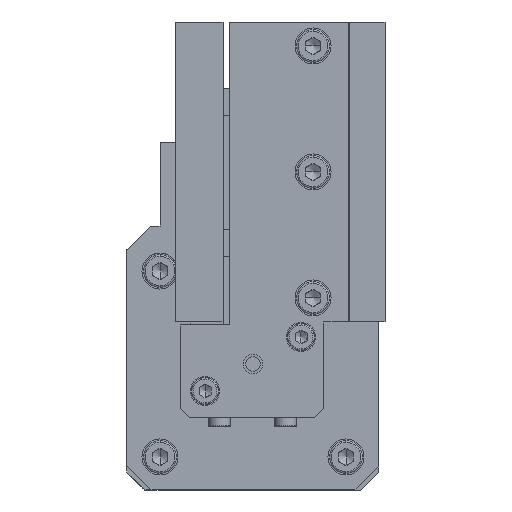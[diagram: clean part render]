
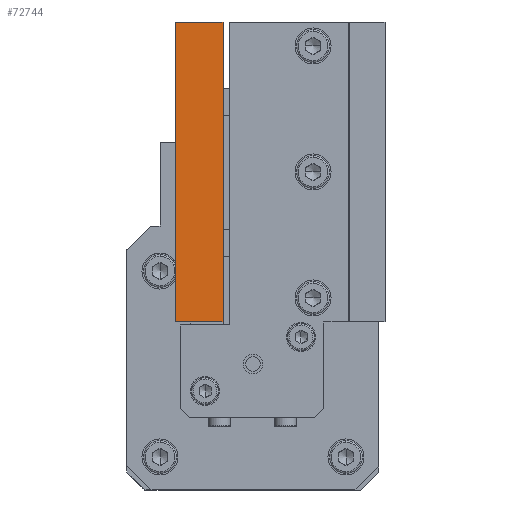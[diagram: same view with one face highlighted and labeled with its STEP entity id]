
A CAD part, left-side view. The second image highlights one B-rep face of the part: STEP entity #72744.
In plain terms, the highlighted planar face has unit normal (-1, 0, 0).
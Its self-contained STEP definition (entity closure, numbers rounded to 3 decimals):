
#36941 = CARTESIAN_POINT ( 'NONE',  ( 53.185, 35., 50. ) ) ;
#37044 = DIRECTION ( 'NONE',  ( 0., 0., -1. ) ) ;
#37045 = VECTOR ( 'NONE', #37044, 1000. ) ;
#37046 = CARTESIAN_POINT ( 'NONE',  ( 53.185, 35., 50. ) ) ;
#37047 = LINE ( 'NONE', #37046, #37045 ) ;
#37052 = CARTESIAN_POINT ( 'NONE',  ( 53.185, 35., 0. ) ) ;
#41054 = CARTESIAN_POINT ( 'NONE',  ( 53.185, 27., 0. ) ) ;
#41055 = DIRECTION ( 'NONE',  ( 0., 0., 1. ) ) ;
#41056 = VECTOR ( 'NONE', #41055, 1000. ) ;
#41058 = CARTESIAN_POINT ( 'NONE',  ( 53.185, 27., -5.385 ) ) ;
#41060 = LINE ( 'NONE', #41058, #41056 ) ;
#41062 = DIRECTION ( 'NONE',  ( 0., -1., 0. ) ) ;
#41063 = DIRECTION ( 'NONE',  ( -1., 0., 0. ) ) ;
#41065 = CARTESIAN_POINT ( 'NONE',  ( 53.185, 27., 50. ) ) ;
#41066 = AXIS2_PLACEMENT_3D ( 'NONE', #41065, #41063, #41062 ) ;
#41068 = PLANE ( 'NONE',  #41066 ) ;
#41072 = FACE_OUTER_BOUND ( 'NONE', #72770, .T. ) ;
#41158 = DIRECTION ( 'NONE',  ( 0., 1., 0. ) ) ;
#41159 = VECTOR ( 'NONE', #41158, 1000. ) ;
#41160 = CARTESIAN_POINT ( 'NONE',  ( 53.185, 27., 0. ) ) ;
#41161 = LINE ( 'NONE', #41160, #41159 ) ;
#41162 = DIRECTION ( 'NONE',  ( 0., -1., 0. ) ) ;
#41164 = VECTOR ( 'NONE', #41162, 1000. ) ;
#41165 = CARTESIAN_POINT ( 'NONE',  ( 53.185, 27., 50. ) ) ;
#41166 = LINE ( 'NONE', #41165, #41164 ) ;
#41172 = CARTESIAN_POINT ( 'NONE',  ( 53.185, 27., 50. ) ) ;
#71744 = VERTEX_POINT ( 'NONE', #36941 ) ;
#71750 = VERTEX_POINT ( 'NONE', #37052 ) ;
#71752 = EDGE_CURVE ( 'NONE', #71744, #71750, #37047, .T. ) ;
#72744 = ADVANCED_FACE ( 'NONE', ( #41072 ), #41068, .T. ) ;
#72745 = ORIENTED_EDGE ( 'NONE', *, *, #72746, .T. ) ;
#72746 = EDGE_CURVE ( 'NONE', #72747, #72748, #41060, .T. ) ;
#72747 = VERTEX_POINT ( 'NONE', #41054 ) ;
#72748 = VERTEX_POINT ( 'NONE', #41172 ) ;
#72749 = ORIENTED_EDGE ( 'NONE', *, *, #72750, .F. ) ;
#72750 = EDGE_CURVE ( 'NONE', #71744, #72748, #41166, .T. ) ;
#72751 = ORIENTED_EDGE ( 'NONE', *, *, #71752, .T. ) ;
#72752 = ORIENTED_EDGE ( 'NONE', *, *, #72753, .F. ) ;
#72753 = EDGE_CURVE ( 'NONE', #72747, #71750, #41161, .T. ) ;
#72770 = EDGE_LOOP ( 'NONE', ( #72745, #72749, #72751, #72752 ) ) ;
